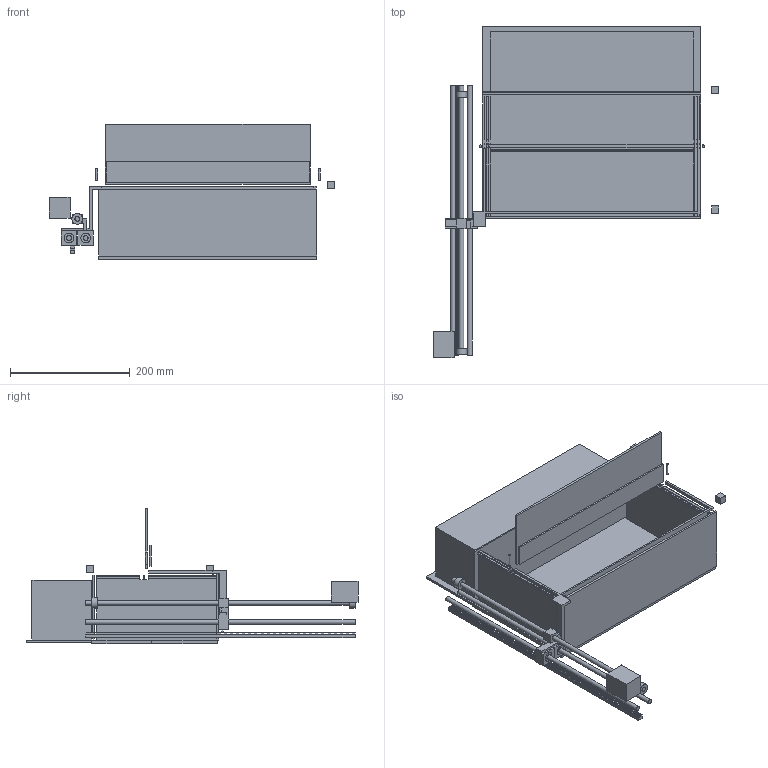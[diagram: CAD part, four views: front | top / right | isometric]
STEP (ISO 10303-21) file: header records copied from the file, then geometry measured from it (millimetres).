
FILE_DESCRIPTION(('FreeCAD Model'),'2;1');
FILE_NAME('Open CASCADE Shape Model','2026-10-19T11:23:01',('FreeCAD'),( 'FreeCAD'),'Open CASCADE STEP processor 7.8','FreeCAD','Unknown');
FILE_SCHEMA(('AUTOMOTIVE_DESIGN { 1 0 10303 214 1 1 1 1 }'));
Length unit declared in the file: millimetre
Products named in the file (1): Open CASCADE STEP translator 7.8 4
Bounding box: 477.5 x 555 x 226 mm (x, y, z)
Volume: 4924722.8 mm3; surface area: 934828.9 mm2
Topology: 30 solids, 30 shells, 1166 faces, 3315 edges, 2210 vertices
Faces by surface type: plane 1150, cylinder 16
Full cylindrical faces by diameter (mm): 4 x2, 8 x3, 8.5 x5, 16 x4, 18 x2
Entity records: 37091 total; most frequent: CARTESIAN_POINT 6692, ORIENTED_EDGE 6630, DIRECTION 5681, EDGE_CURVE 3315, LINE 3283, VECTOR 3283, VERTEX_POINT 2210, AXIS2_PLACEMENT_3D 1199
